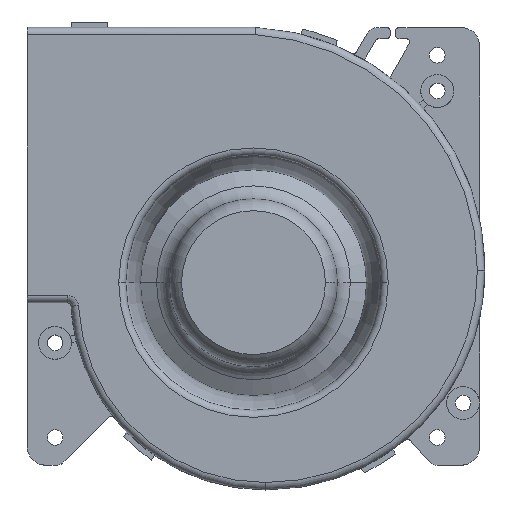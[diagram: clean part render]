
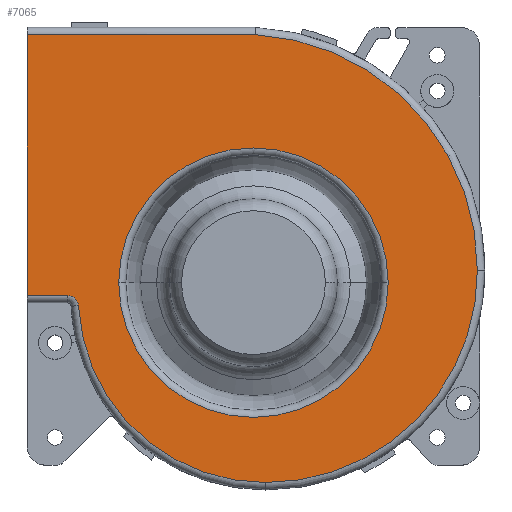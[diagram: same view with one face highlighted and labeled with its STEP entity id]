
A CAD part, top view. The second image highlights one B-rep face of the part: STEP entity #7065.
In plain terms, the highlighted planar face has unit normal (0, 0, 1).
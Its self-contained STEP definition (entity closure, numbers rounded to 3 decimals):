
#95 = DIRECTION ( 'NONE',  ( -1., 0., 0. ) ) ;
#278 = LINE ( 'NONE', #2389, #5056 ) ;
#428 = ORIENTED_EDGE ( 'NONE', *, *, #9423, .T. ) ;
#441 = CARTESIAN_POINT ( 'NONE',  ( -62., 68., 32.2 ) ) ;
#529 = DIRECTION ( 'NONE',  ( -1., 0., 0. ) ) ;
#577 = DIRECTION ( 'NONE',  ( 0., 0., -1. ) ) ;
#836 = VECTOR ( 'NONE', #9885, 1000. ) ;
#933 = EDGE_CURVE ( 'NONE', #10705, #7376, #7137, .T. ) ;
#1095 = ORIENTED_EDGE ( 'NONE', *, *, #2371, .T. ) ;
#1486 = PLANE ( 'NONE',  #9416 ) ;
#1533 = VERTEX_POINT ( 'NONE', #441 ) ;
#1787 = DIRECTION ( 'NONE',  ( 0., 0., 1. ) ) ;
#1843 = EDGE_CURVE ( 'NONE', #6676, #8141, #7110, .T. ) ;
#2013 = CIRCLE ( 'NONE', #4158, 36.95 ) ;
#2304 = CARTESIAN_POINT ( 'NONE',  ( 61.399, 3.392, 32.2 ) ) ;
#2364 = CIRCLE ( 'NONE', #11500, 36.95 ) ;
#2371 = EDGE_CURVE ( 'NONE', #3813, #3729, #2013, .T. ) ;
#2389 = CARTESIAN_POINT ( 'NONE',  ( -62., 68., 32.2 ) ) ;
#2559 = DIRECTION ( 'NONE',  ( 1., 0., 0. ) ) ;
#3010 = AXIS2_PLACEMENT_3D ( 'NONE', #11983, #6241, #529 ) ;
#3147 = CARTESIAN_POINT ( 'NONE',  ( -62., -5.5, 32.2 ) ) ;
#3238 = CARTESIAN_POINT ( 'NONE',  ( 0., 0., 32.2 ) ) ;
#3398 = LINE ( 'NONE', #3147, #836 ) ;
#3486 = ORIENTED_EDGE ( 'NONE', *, *, #5864, .T. ) ;
#3531 = EDGE_LOOP ( 'NONE', ( #5176, #428, #11260, #6367, #12148, #7332, #10411 ) ) ;
#3607 = DIRECTION ( 'NONE',  ( 0., 0., 1. ) ) ;
#3729 = VERTEX_POINT ( 'NONE', #4347 ) ;
#3813 = VERTEX_POINT ( 'NONE', #6443 ) ;
#4158 = AXIS2_PLACEMENT_3D ( 'NONE', #11543, #5804, #95 ) ;
#4201 = DIRECTION ( 'NONE',  ( -1., 0., 0. ) ) ;
#4347 = CARTESIAN_POINT ( 'NONE',  ( 36.95, 0., 32.2 ) ) ;
#4371 = CARTESIAN_POINT ( 'NONE',  ( -3., 3.7, 32.2 ) ) ;
#4456 = FACE_BOUND ( 'NONE', #11302, .T. ) ;
#4597 = AXIS2_PLACEMENT_3D ( 'NONE', #10459, #4720, #11420 ) ;
#4720 = DIRECTION ( 'NONE',  ( 0., 0., 1. ) ) ;
#5056 = VECTOR ( 'NONE', #11918, 1000. ) ;
#5086 = CIRCLE ( 'NONE', #4597, 57.9 ) ;
#5176 = ORIENTED_EDGE ( 'NONE', *, *, #8623, .F. ) ;
#5405 = VERTEX_POINT ( 'NONE', #8409 ) ;
#5804 = DIRECTION ( 'NONE',  ( 0., 0., -1. ) ) ;
#5864 = EDGE_CURVE ( 'NONE', #3729, #3813, #2364, .T. ) ;
#5983 = VERTEX_POINT ( 'NONE', #6306 ) ;
#6121 = EDGE_CURVE ( 'NONE', #8141, #10705, #5086, .T. ) ;
#6241 = DIRECTION ( 'NONE',  ( 0., 0., -1. ) ) ;
#6306 = CARTESIAN_POINT ( 'NONE',  ( -62., -3.5, 32.2 ) ) ;
#6367 = ORIENTED_EDGE ( 'NONE', *, *, #1843, .T. ) ;
#6443 = CARTESIAN_POINT ( 'NONE',  ( -36.95, 0., 32.2 ) ) ;
#6676 = VERTEX_POINT ( 'NONE', #7487 ) ;
#6976 = FACE_OUTER_BOUND ( 'NONE', #3531, .T. ) ;
#7048 = EDGE_CURVE ( 'NONE', #5405, #6676, #12088, .T. ) ;
#7065 = ADVANCED_FACE ( 'NONE', ( #6976, #4456 ), #1486, .F. ) ;
#7110 = CIRCLE ( 'NONE', #10104, 51.3 ) ;
#7137 = CIRCLE ( 'NONE', #11070, 64.4 ) ;
#7230 = DIRECTION ( 'NONE',  ( -1., 0., 0. ) ) ;
#7332 = ORIENTED_EDGE ( 'NONE', *, *, #933, .T. ) ;
#7376 = VERTEX_POINT ( 'NONE', #11690 ) ;
#7487 = CARTESIAN_POINT ( 'NONE',  ( -48.022, -6.334, 32.2 ) ) ;
#7509 = DIRECTION ( 'NONE',  ( -1., 0., 0. ) ) ;
#8141 = VERTEX_POINT ( 'NONE', #10243 ) ;
#8409 = CARTESIAN_POINT ( 'NONE',  ( -51.017, -3.5, 32.2 ) ) ;
#8502 = CARTESIAN_POINT ( 'NONE',  ( -3., 3.7, 32.2 ) ) ;
#8623 = EDGE_CURVE ( 'NONE', #5983, #1533, #3398, .T. ) ;
#8815 = VECTOR ( 'NONE', #2559, 1000. ) ;
#9261 = CARTESIAN_POINT ( 'NONE',  ( -51.017, -3.5, 32.2 ) ) ;
#9317 = CARTESIAN_POINT ( 'NONE',  ( 3.2, -3.5, 32.2 ) ) ;
#9416 = AXIS2_PLACEMENT_3D ( 'NONE', #4371, #577, #7230 ) ;
#9423 = EDGE_CURVE ( 'NONE', #5983, #5405, #11078, .T. ) ;
#9885 = DIRECTION ( 'NONE',  ( 0., 1., 0. ) ) ;
#9937 = DIRECTION ( 'NONE',  ( 0., 0., -1. ) ) ;
#10104 = AXIS2_PLACEMENT_3D ( 'NONE', #9317, #3607, #10298 ) ;
#10243 = CARTESIAN_POINT ( 'NONE',  ( 3.345, -54.8, 32.2 ) ) ;
#10298 = DIRECTION ( 'NONE',  ( -1., 0., 0. ) ) ;
#10411 = ORIENTED_EDGE ( 'NONE', *, *, #10735, .T. ) ;
#10459 = CARTESIAN_POINT ( 'NONE',  ( 3.5, 3.1, 32.2 ) ) ;
#10705 = VERTEX_POINT ( 'NONE', #2304 ) ;
#10735 = EDGE_CURVE ( 'NONE', #7376, #1533, #278, .T. ) ;
#11070 = AXIS2_PLACEMENT_3D ( 'NONE', #8502, #1787, #7509 ) ;
#11078 = LINE ( 'NONE', #9261, #8815 ) ;
#11260 = ORIENTED_EDGE ( 'NONE', *, *, #7048, .T. ) ;
#11302 = EDGE_LOOP ( 'NONE', ( #1095, #3486 ) ) ;
#11420 = DIRECTION ( 'NONE',  ( -1., 0., 0. ) ) ;
#11500 = AXIS2_PLACEMENT_3D ( 'NONE', #3238, #9937, #4201 ) ;
#11543 = CARTESIAN_POINT ( 'NONE',  ( 0., 0., 32.2 ) ) ;
#11690 = CARTESIAN_POINT ( 'NONE',  ( 0.587, 68., 32.2 ) ) ;
#11918 = DIRECTION ( 'NONE',  ( -1., 0., 0. ) ) ;
#11983 = CARTESIAN_POINT ( 'NONE',  ( -51.017, -6.5, 32.2 ) ) ;
#12088 = CIRCLE ( 'NONE', #3010, 3. ) ;
#12148 = ORIENTED_EDGE ( 'NONE', *, *, #6121, .T. ) ;
